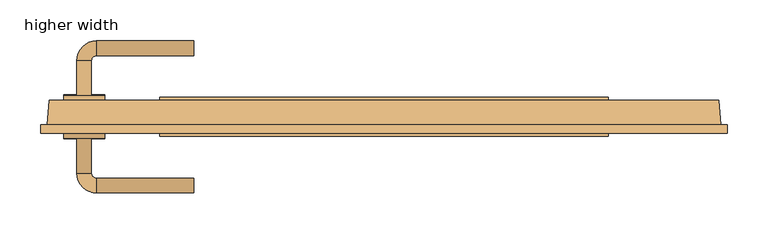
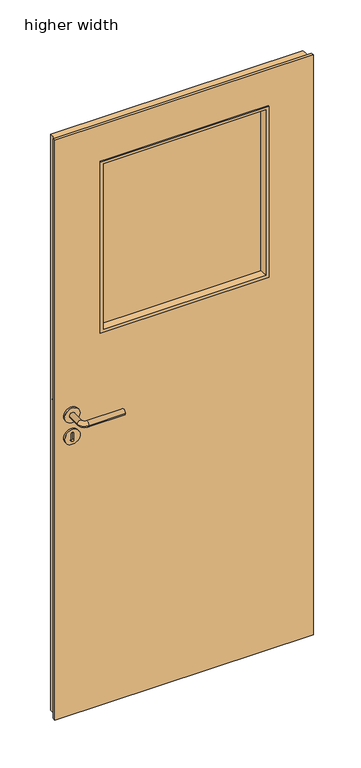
"""IFC4 building model written with IfcOpenShell, lengths in millimetres: door geometry, Panel_FIN_40D_Rebated_Glazed_05 : higher width."""

from ifc_helpers import new_model, si_unit, point, frame, frame_2d, origin, place, context, project, spatial, polyline, circle_curve, ellipse_curve, trimmed, segment, composite_curve, outline, extrude, faceted_brep, source, transform, mapped, element, save
from ifc_brep_helpers import plane_surface, cylinder_surface, revolved_surface, advanced_brep


def higher_width_cb545d14(model_context):
    return source(origin(), model_context, "Body", "SolidModel", [
        extrude(outline(composite_curve([segment(trimmed(circle_curve(frame_2d((970.5, -367.0)), 25.0), [point((970.5, -342.0))], [point((970.5, -392.0))], False, "CARTESIAN"), True, "CONTINUOUS"), segment(trimmed(circle_curve(frame_2d((970.5, -367.0)), 25.0), [point((970.5, -392.0))], [point((970.5, -342.0))], False, "CARTESIAN"), True, "CONTINUOUS")], self_intersect=False), holes=[composite_curve([segment(polyline([(959.256589, -371.0), (981.743411, -371.0)]), True, "CONTINUOUS"), segment(trimmed(circle_curve(frame_2d((981.743411, -367.0)), 4.0), [point((981.743411, -371.0))], [point((981.743411, -363.0))], True, "CARTESIAN"), True, "CONTINUOUS"), segment(polyline([(981.743411, -363.0), (959.256589, -363.0)]), True, "CONTINUOUS"), segment(trimmed(circle_curve(frame_2d((959.256589, -367.0)), 4.0), [point((959.256589, -363.0))], [point((959.256589, -371.0))], True, "CARTESIAN"), True, "CONTINUOUS")], self_intersect=False)]), frame((0.0, 40.0, 0.0), z_axis=(0.0, 1.0, 0.0), x_axis=(0.0, 0.0, 1.0)), (0.0, 0.0, 1.0), 7.0),
        extrude(outline(composite_curve([segment(trimmed(circle_curve(frame_2d((970.5, -367.0)), 25.0), [point((970.5, -342.0))], [point((970.5, -392.0))], False, "CARTESIAN"), True, "CONTINUOUS"), segment(trimmed(circle_curve(frame_2d((970.5, -367.0)), 25.0), [point((970.5, -392.0))], [point((970.5, -342.0))], False, "CARTESIAN"), True, "CONTINUOUS")], self_intersect=False), holes=[composite_curve([segment(trimmed(circle_curve(frame_2d((981.743411, -367.0)), 4.0), [point((981.743411, -371.0))], [point((981.743411, -363.0))], True, "CARTESIAN"), True, "CONTINUOUS"), segment(polyline([(981.743411, -363.0), (959.256589, -363.0)]), True, "CONTINUOUS"), segment(trimmed(circle_curve(frame_2d((959.256589, -367.0)), 4.0), [point((959.256589, -363.0))], [point((959.256589, -371.0))], True, "CARTESIAN"), True, "CONTINUOUS"), segment(polyline([(959.256589, -371.0), (981.743411, -371.0)]), True, "CONTINUOUS")], self_intersect=False)]), frame((0.0, -7.0, 0.0), z_axis=(0.0, 1.0, 0.0), x_axis=(0.0, 0.0, 1.0)), (0.0, 0.0, 1.0), 7.0),
        advanced_brep(
        [(-392.0, 46.0, 1044.5), (-342.0, 46.0, 1044.5), (-358.0346073, 46.0, 1044.5), (-375.9653927, 46.0, 1044.5), (-392.0, 40.0, 1044.5), (-342.0, 40.0, 1044.5), (-358.0346073, 88.9627146, 1044.5), (-375.9653927, 88.9627146, 1044.5), (-352.0, 94.9973219, 1044.5), (-352.0, 112.9281073, 1044.5), (-233.0, 94.9973219, 1044.5), (-233.0, 112.9281073, 1044.5)],
        [
            (0, 1, circle_curve(frame((-367.0, 46.0, 1044.5), z_axis=(0.0, 1.0, 0.0), x_axis=(1.0, 0.0, 0.0)), 25.0)),
            (1, 0, circle_curve(frame((-367.0, 46.0, 1044.5), z_axis=(0.0, 1.0, 0.0), x_axis=(1.0, 0.0, 0.0)), 25.0)),
            (2, 3, circle_curve(frame((-367.0, 46.0, 1044.5), z_axis=(0.0, -1.0, 0.0), x_axis=(-1.0, 0.0, 0.0)), 8.9653927)),
            (3, 2, circle_curve(frame((-367.0, 46.0, 1044.5), z_axis=(0.0, -1.0, 0.0), x_axis=(-1.0, 0.0, 0.0)), 8.9653927)),
            (4, 5, circle_curve(frame((-367.0, 40.0, 1044.5), z_axis=(0.0, -1.0, 0.0), x_axis=(1.0, 0.0, 0.0)), 25.0)),
            (5, 4, circle_curve(frame((-367.0, 40.0, 1044.5), z_axis=(0.0, -1.0, 0.0), x_axis=(1.0, 0.0, 0.0)), 25.0)),
            (1, 5),
            (4, 0),
            (2, 6),
            (6, 7, circle_curve(frame((-367.0, 88.9627146, 1044.5), z_axis=(0.0, -1.0, 0.0), x_axis=(-1.0, 0.0, 0.0)), 8.9653927)),
            (7, 3),
            (7, 6, circle_curve(frame((-367.0, 88.9627146, 1044.5), z_axis=(0.0, -1.0, 0.0), x_axis=(-1.0, 0.0, 0.0)), 8.9653927)),
            (6, 8, circle_curve(frame((-352.0, 88.9627146, 1044.5), z_axis=(0.0, 0.0, -1.0), x_axis=(-1.0, 0.0, 0.0)), 6.0346073)),
            (8, 9, circle_curve(frame((-352.0, 103.9627146, 1044.5), z_axis=(-1.0, 0.0, 0.0), x_axis=(0.0, 1.0, 0.0)), 8.9653927)),
            (9, 7, circle_curve(frame((-352.0, 88.9627146, 1044.5), z_axis=(0.0, 0.0, 1.0), x_axis=(-1.0, 0.0, 0.0)), 23.9653927)),
            (9, 8, circle_curve(frame((-352.0, 103.9627146, 1044.5), z_axis=(-1.0, 0.0, 0.0), x_axis=(0.0, 1.0, 0.0)), 8.9653927)),
            (10, 11, circle_curve(frame((-233.0, 103.9627146, 1044.5), z_axis=(1.0, 0.0, 0.0), x_axis=(0.0, 1.0, 0.0)), 8.9653927)),
            (11, 10, circle_curve(frame((-233.0, 103.9627146, 1044.5), z_axis=(1.0, 0.0, 0.0), x_axis=(0.0, 1.0, 0.0)), 8.9653927)),
            (8, 10),
            (11, 9),
        ],
        [
            plane_surface(frame((-342.0, 46.0, 1044.5), z_axis=(0.0, 1.0, 0.0), x_axis=(0.0, 0.0, -1.0))),
            plane_surface(frame((-342.0, 40.0, 1044.5), z_axis=(0.0, -1.0, 0.0), x_axis=(0.0, 0.0, 1.0))),
            cylinder_surface(frame((-367.0, 46.0, 1044.5), z_axis=(0.0, -1.0, 0.0), x_axis=(1.0, 0.0, 0.0)), 25.0),
            cylinder_surface(frame((-367.0, 46.0, 1044.5), z_axis=(0.0, -1.0, 0.0), x_axis=(-1.0, 0.0, 0.0)), 8.9653927),
            revolved_surface(trimmed(ellipse_curve(frame((-367.0, 88.9627146, 1044.5), z_axis=(0.0, -1.0, 0.0), x_axis=(-1.0, 0.0, 0.0)), 8.9653927, 8.9653927), [point((-358.0346073, 88.9627146, 1044.5))], [point((-375.9653927, 88.9627146, 1044.5))], True, "CARTESIAN"), (-352.0, 88.9627146, 1044.5), (0.0, 0.0, -1.0)),
            revolved_surface(trimmed(ellipse_curve(frame((-367.0, 88.9627146, 1044.5), z_axis=(0.0, -1.0, 0.0), x_axis=(-1.0, 0.0, 0.0)), 8.9653927, 8.9653927), [point((-375.9653927, 88.9627146, 1044.5))], [point((-358.0346073, 88.9627146, 1044.5))], True, "CARTESIAN"), (-352.0, 88.9627146, 1044.5), (0.0, 0.0, -1.0)),
            plane_surface(frame((-233.0, 103.9627146, 1044.5), z_axis=(1.0, 0.0, 0.0), x_axis=(0.0, 0.0, 1.0))),
            cylinder_surface(frame((-352.0, 103.9627146, 1044.5), z_axis=(-1.0, 0.0, 0.0), x_axis=(0.0, 1.0, 0.0)), 8.9653927),
        ],
        [
            (0, [[1, 2], [3, 4]]),
            (1, [[5, 6]]),
            (2, [[-2, 7, -5, 8]]),
            (2, [[-1, -8, -6, -7]]),
            (3, [[9, 10, 11, -3]]),
            (3, [[-9, -4, -11, 12]]),
            (4, [[-10, 13, 14, 15]]),
            (5, [[-12, -15, 16, -13]]),
            (6, [[17, 18]]),
            (7, [[-14, 19, -18, 20]]),
            (7, [[-16, -20, -17, -19]]),
        ],
    ),
        advanced_brep(
        [(-392.0, -6.0, 1044.5), (-342.0, -6.0, 1044.5), (-358.0346073, -6.0, 1044.5), (-375.9653927, -6.0, 1044.5), (-392.0, 0.0, 1044.5), (-342.0, 0.0, 1044.5), (-375.9653927, -48.9627146, 1044.5), (-358.0346073, -48.9627146, 1044.5), (-352.0, -72.9281073, 1044.5), (-352.0, -54.9973219, 1044.5), (-233.0, -54.9973219, 1044.5), (-233.0, -72.9281073, 1044.5)],
        [
            (0, 1, circle_curve(frame((-367.0, -6.0, 1044.5), z_axis=(0.0, -1.0, 0.0), x_axis=(1.0, 0.0, 0.0)), 25.0)),
            (1, 0, circle_curve(frame((-367.0, -6.0, 1044.5), z_axis=(0.0, -1.0, 0.0), x_axis=(1.0, 0.0, 0.0)), 25.0)),
            (2, 3, circle_curve(frame((-367.0, -6.0, 1044.5), z_axis=(0.0, 1.0, 0.0), x_axis=(-1.0, 0.0, 0.0)), 8.9653927)),
            (3, 2, circle_curve(frame((-367.0, -6.0, 1044.5), z_axis=(0.0, 1.0, 0.0), x_axis=(-1.0, 0.0, 0.0)), 8.9653927)),
            (4, 5, circle_curve(frame((-367.0, 0.0, 1044.5), z_axis=(0.0, 1.0, 0.0), x_axis=(1.0, 0.0, 0.0)), 25.0)),
            (5, 4, circle_curve(frame((-367.0, 0.0, 1044.5), z_axis=(0.0, 1.0, 0.0), x_axis=(1.0, 0.0, 0.0)), 25.0)),
            (0, 4),
            (5, 1),
            (3, 6),
            (6, 7, circle_curve(frame((-367.0, -48.9627146, 1044.5), z_axis=(0.0, 1.0, 0.0), x_axis=(-1.0, 0.0, 0.0)), 8.9653927)),
            (7, 2),
            (7, 6, circle_curve(frame((-367.0, -48.9627146, 1044.5), z_axis=(0.0, 1.0, 0.0), x_axis=(-1.0, 0.0, 0.0)), 8.9653927)),
            (6, 8, circle_curve(frame((-352.0, -48.9627146, 1044.5), z_axis=(0.0, 0.0, 1.0), x_axis=(-1.0, 0.0, 0.0)), 23.9653927)),
            (8, 9, circle_curve(frame((-352.0, -63.9627146, 1044.5), z_axis=(-1.0, 0.0, 0.0), x_axis=(0.0, -1.0, 0.0)), 8.9653927)),
            (9, 7, circle_curve(frame((-352.0, -48.9627146, 1044.5), z_axis=(0.0, 0.0, -1.0), x_axis=(-1.0, 0.0, 0.0)), 6.0346073)),
            (9, 8, circle_curve(frame((-352.0, -63.9627146, 1044.5), z_axis=(-1.0, 0.0, 0.0), x_axis=(0.0, -1.0, 0.0)), 8.9653927)),
            (10, 11, circle_curve(frame((-233.0, -63.9627146, 1044.5), z_axis=(1.0, 0.0, 0.0), x_axis=(0.0, -1.0, 0.0)), 8.9653927)),
            (11, 10, circle_curve(frame((-233.0, -63.9627146, 1044.5), z_axis=(1.0, 0.0, 0.0), x_axis=(0.0, -1.0, 0.0)), 8.9653927)),
            (8, 11),
            (10, 9),
        ],
        [
            plane_surface(frame((-342.0, -6.0, 1044.5), z_axis=(0.0, -1.0, 0.0), x_axis=(0.0, 0.0, -1.0))),
            plane_surface(frame((-342.0, 0.0, 1044.5), z_axis=(0.0, 1.0, 0.0), x_axis=(0.0, 0.0, 1.0))),
            cylinder_surface(frame((-367.0, -6.0, 1044.5), z_axis=(0.0, 1.0, 0.0), x_axis=(1.0, 0.0, 0.0)), 25.0),
            cylinder_surface(frame((-367.0, -6.0, 1044.5), z_axis=(0.0, 1.0, 0.0), x_axis=(-1.0, 0.0, 0.0)), 8.9653927),
            revolved_surface(trimmed(ellipse_curve(frame((-367.0, -48.9627146, 1044.5), z_axis=(0.0, -1.0, 0.0), x_axis=(-1.0, 0.0, 0.0)), 8.9653927, 8.9653927), [point((-358.0346073, -48.9627146, 1044.5))], [point((-375.9653927, -48.9627146, 1044.5))], True, "CARTESIAN"), (-352.0, -48.9627146, 1044.5), (0.0, 0.0, -1.0)),
            revolved_surface(trimmed(ellipse_curve(frame((-367.0, -48.9627146, 1044.5), z_axis=(0.0, -1.0, 0.0), x_axis=(-1.0, 0.0, 0.0)), 8.9653927, 8.9653927), [point((-375.9653927, -48.9627146, 1044.5))], [point((-358.0346073, -48.9627146, 1044.5))], True, "CARTESIAN"), (-352.0, -48.9627146, 1044.5), (0.0, 0.0, -1.0)),
            plane_surface(frame((-233.0, -63.9627146, 1044.5), z_axis=(1.0, 0.0, 0.0), x_axis=(0.0, 0.0, 1.0))),
            cylinder_surface(frame((-352.0, -63.9627146, 1044.5), z_axis=(-1.0, 0.0, 0.0), x_axis=(0.0, -1.0, 0.0)), 8.9653927),
        ],
        [
            (0, [[1, 2], [3, 4]]),
            (1, [[5, 6]]),
            (2, [[7, -6, 8, -1]]),
            (2, [[-8, -5, -7, -2]]),
            (3, [[-4, 9, 10, 11]]),
            (3, [[12, -9, -3, -11]]),
            (4, [[13, 14, 15, -10]]),
            (5, [[-15, 16, -13, -12]]),
            (6, [[17, 18]]),
            (7, [[19, -17, 20, -14]]),
            (7, [[-20, -18, -19, -16]]),
        ],
    ),
        faceted_brep([(409.9021956, 40.0, 18.0), (-409.9021956, 40.0, 18.0), (-409.9021956, 40.0, 1997.0), (409.9021956, 40.0, 1997.0), (-270.0, 40.0, 1297.0), (270.0, 40.0, 1297.0), (270.0, 40.0, 1876.0), (-270.0, 40.0, 1876.0), (412.0, 10.0, 1997.0), (412.0, 10.0, 18.0), (-412.0, 10.0, 18.0), (-412.0, 10.0, 1997.0), (-420.0, 0.0, 2003.0), (-420.0, 0.0, 12.0), (420.0, 0.0, 12.0), (420.0, 0.0, 2003.0), (-270.0, 0.0, 1876.0), (270.0, 0.0, 1876.0), (270.0, 0.0, 1297.0), (-270.0, 0.0, 1297.0), (420.0, 10.0, 12.0), (420.0, 10.0, 2003.0), (-420.0, 10.0, 12.0), (-420.0, 10.0, 2003.0)], [[[0, 1, 2, 3], [4, 5, 6, 7]], [[3, 8, 9, 0]], [[1, 10, 11, 2]], [[10, 1, 0, 9]], [[12, 13, 14, 15], [16, 17, 18, 19]], [[14, 20, 21, 15]], [[13, 22, 20, 14]], [[12, 23, 22, 13]], [[22, 23, 21, 20], [10, 9, 8, 11]], [[15, 21, 23, 12]], [[8, 3, 2, 11]], [[16, 19, 4, 7]], [[19, 18, 5, 4]], [[18, 17, 6, 5]], [[7, 6, 17, 16]]]),
        faceted_brep([(-264.5, -4.0, 1870.5), (-264.5, -4.0, 1302.5), (-260.0, 17.0, 1307.0), (-260.0, 17.0, 1866.0), (-270.0, 16.2, 1297.0), (-270.0, 16.2, 1876.0), (-270.0, 0.0, 1297.0), (-270.0, 0.0, 1876.0), (-274.5, 0.0, 1880.5), (-274.5, 0.0, 1292.5), (-274.5, -4.0, 1292.5), (-274.5, -4.0, 1880.5), (264.5, -4.0, 1302.5), (260.0, 17.0, 1307.0), (270.0, 16.2, 1297.0), (270.0, 0.0, 1297.0), (274.5, 0.0, 1292.5), (274.5, -4.0, 1292.5), (264.5, -4.0, 1870.5), (260.0, 17.0, 1866.0), (270.0, 16.2, 1876.0), (270.0, 0.0, 1876.0), (274.5, 0.0, 1880.5), (274.5, -4.0, 1880.5)], [[[0, 1, 2, 3]], [[3, 2, 4, 5]], [[5, 4, 6, 7]], [[8, 9, 10, 11]], [[1, 12, 13, 2]], [[2, 13, 14, 4]], [[4, 14, 15, 6]], [[9, 16, 17, 10]], [[12, 18, 19, 13]], [[13, 19, 20, 14]], [[14, 20, 21, 15]], [[16, 22, 23, 17]], [[18, 0, 3, 19]], [[19, 3, 5, 20]], [[20, 5, 7, 21]], [[9, 8, 22, 16], [7, 6, 15, 21]], [[22, 8, 11, 23]], [[11, 10, 17, 23], [1, 0, 18, 12]]]),
        faceted_brep([(264.5, 44.0, 1870.5), (264.5, 44.0, 1302.5), (260.0, 23.0, 1307.0), (260.0, 23.0, 1866.0), (270.0, 23.8, 1297.0), (270.0, 23.8, 1876.0), (270.0, 40.0, 1297.0), (270.0, 40.0, 1876.0), (274.5, 40.0, 1880.5), (274.5, 40.0, 1292.5), (274.5, 44.0, 1292.5), (274.5, 44.0, 1880.5), (-264.5, 44.0, 1302.5), (-260.0, 23.0, 1307.0), (-270.0, 23.8, 1297.0), (-270.0, 40.0, 1297.0), (-274.5, 40.0, 1292.5), (-274.5, 44.0, 1292.5), (-264.5, 44.0, 1870.5), (-260.0, 23.0, 1866.0), (-270.0, 23.8, 1876.0), (-270.0, 40.0, 1876.0), (-274.5, 40.0, 1880.5), (-274.5, 44.0, 1880.5)], [[[0, 1, 2, 3]], [[3, 2, 4, 5]], [[5, 4, 6, 7]], [[8, 9, 10, 11]], [[1, 12, 13, 2]], [[2, 13, 14, 4]], [[4, 14, 15, 6]], [[9, 16, 17, 10]], [[12, 18, 19, 13]], [[13, 19, 20, 14]], [[14, 20, 21, 15]], [[16, 22, 23, 17]], [[18, 0, 3, 19]], [[19, 3, 5, 20]], [[20, 5, 7, 21]], [[9, 8, 22, 16], [7, 6, 15, 21]], [[22, 8, 11, 23]], [[11, 10, 17, 23], [1, 0, 18, 12]]]),
        extrude(outline(polyline([(-270.0, 17.0), (-270.0, 23.0), (270.0, 23.0), (270.0, 17.0), (-270.0, 17.0)])), frame((0.0, 0.0, 1297.0), z_axis=(0.0, 0.0, 1.0), x_axis=(1.0, 0.0, 0.0)), (0.0, 0.0, 1.0), 579.0),
    ])


if __name__ == "__main__":
    model = new_model("IFC4")
    model_context = context("Model", 3, world=origin())
    ifc_project = project(units=[si_unit("LENGTHUNIT", "METRE", prefix="MILLI")], contexts=[model_context])
    site = spatial("IfcSite", under=ifc_project)
    building = spatial("IfcBuilding", under=site)
    placement = place(None, origin())
    higher_width_shape = higher_width_cb545d14(model_context)
    element("IfcDoor", 1, ObjectType="Panel_FIN_40D_Rebated_Glazed_05 : higher width", at=placement, inside=building, context=model_context, shape_type="MappedRepresentation", body=[
        mapped(higher_width_shape, transform((0.0, 0.0, 0.0), x_axis=(1.0, 0.0, 0.0), y_axis=(0.0, 1.0, 0.0), z_axis=(0.0, 0.0, 1.0))),
    ])
    save(model, "model.ifc")
